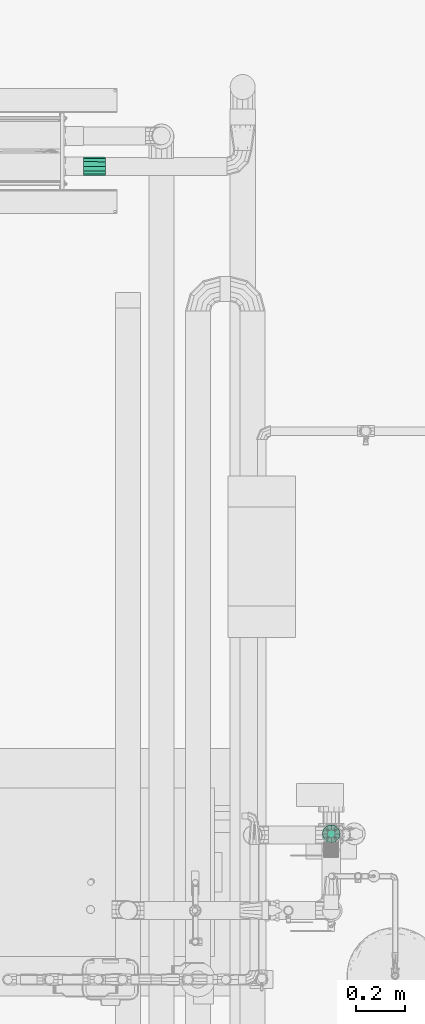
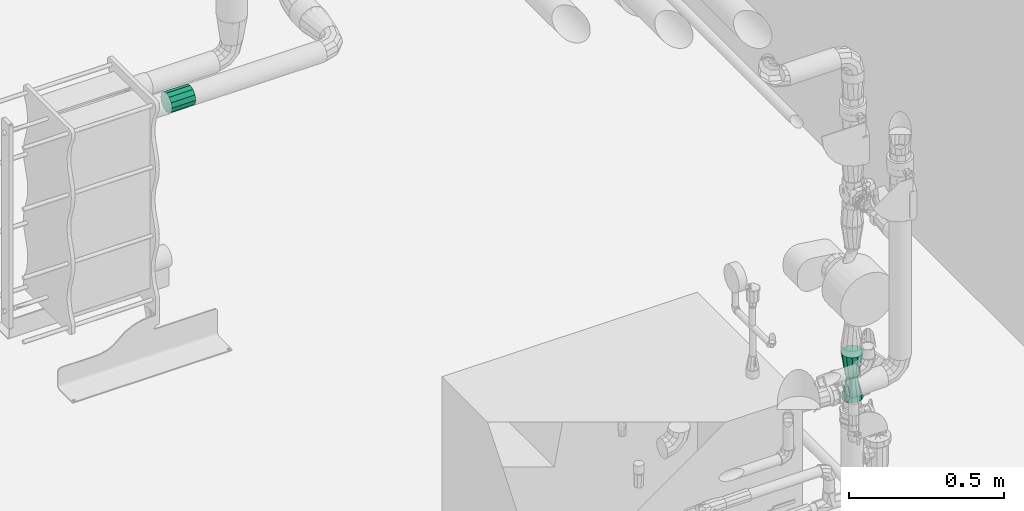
# One storey, part 34 of 43: 3 flow fittings.
"""IFC2X3 building model written with IfcOpenShell, lengths in millimetres."""

from ifc_helpers import new_model, entity, si_unit, converted_unit, derived_unit, direction, frame, origin, place, context, subcontext, project, spatial, faceted_brep, source, transform, mapped, material, type_object, type_shapes, element, save


model = new_model("IFC2X3")

# Units and contexts
model_context = context("Model", 3, precision=0.01, world=origin(), true_north=direction((6.123031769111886e-17, 1.0)))
body_context = subcontext(model_context, "Body", "Model", "MODEL_VIEW")
ifc_project = project(units=[si_unit("LENGTHUNIT", "METRE", prefix="MILLI"), si_unit("AREAUNIT", "SQUARE_METRE"), si_unit("VOLUMEUNIT", "CUBIC_METRE"), converted_unit("PLANEANGLEUNIT", "DEGREE", entity("IfcRatioMeasure", 0.017453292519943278), si_unit("PLANEANGLEUNIT", "RADIAN"), dimensions=[0, 0, 0, 0, 0, 0, 0]), si_unit("MASSUNIT", "GRAM", prefix="KILO"), derived_unit("MASSDENSITYUNIT", [(si_unit("MASSUNIT", "GRAM", prefix="KILO"), 1), (si_unit("LENGTHUNIT", "METRE"), -3)]), derived_unit("MOMENTOFINERTIAUNIT", [(si_unit("LENGTHUNIT", "METRE"), 4)]), si_unit("TIMEUNIT", "SECOND"), si_unit("FREQUENCYUNIT", "HERTZ"), si_unit("THERMODYNAMICTEMPERATUREUNIT", "DEGREE_CELSIUS"), derived_unit("THERMALTRANSMITTANCEUNIT", [(si_unit("MASSUNIT", "GRAM", prefix="KILO"), 1), (si_unit("THERMODYNAMICTEMPERATUREUNIT", "KELVIN"), -1), (si_unit("TIMEUNIT", "SECOND"), -3)]), derived_unit("VOLUMETRICFLOWRATEUNIT", [(si_unit("LENGTHUNIT", "METRE"), 3), (si_unit("TIMEUNIT", "SECOND"), -1)]), derived_unit("MASSFLOWRATEUNIT", [(si_unit("MASSUNIT", "GRAM", prefix="KILO"), 1), (si_unit("TIMEUNIT", "SECOND"), -1)]), derived_unit("ROTATIONALFREQUENCYUNIT", [(si_unit("TIMEUNIT", "SECOND"), -1)]), si_unit("ELECTRICCURRENTUNIT", "AMPERE"), si_unit("ELECTRICVOLTAGEUNIT", "VOLT"), si_unit("POWERUNIT", "WATT"), si_unit("FORCEUNIT", "NEWTON", prefix="KILO"), si_unit("ILLUMINANCEUNIT", "LUX"), si_unit("LUMINOUSFLUXUNIT", "LUMEN"), si_unit("LUMINOUSINTENSITYUNIT", "CANDELA"), derived_unit("USERDEFINED", [(si_unit("MASSUNIT", "GRAM", prefix="KILO"), -1), (si_unit("LENGTHUNIT", "METRE"), -2), (si_unit("TIMEUNIT", "SECOND"), 3), (si_unit("LUMINOUSFLUXUNIT", "LUMEN"), 1)]), derived_unit("SOUNDPOWERUNIT", [(si_unit("MASSUNIT", "GRAM", prefix="KILO"), 1), (si_unit("LENGTHUNIT", "METRE"), 2), (si_unit("TIMEUNIT", "SECOND"), -3)]), derived_unit("SOUNDPRESSUREUNIT", [(si_unit("MASSUNIT", "GRAM", prefix="KILO"), 1), (si_unit("LENGTHUNIT", "METRE"), -1), (si_unit("TIMEUNIT", "SECOND"), -2)]), derived_unit("LINEARVELOCITYUNIT", [(si_unit("LENGTHUNIT", "METRE"), 1), (si_unit("TIMEUNIT", "SECOND"), -1)]), si_unit("PRESSUREUNIT", "PASCAL"), derived_unit("USERDEFINED", [(si_unit("LENGTHUNIT", "METRE"), -2), (si_unit("MASSUNIT", "GRAM", prefix="KILO"), 1), (si_unit("TIMEUNIT", "SECOND"), -2)]), derived_unit("LINEARFORCEUNIT", [(si_unit("MASSUNIT", "GRAM", prefix="KILO"), 1), (si_unit("LENGTHUNIT", "METRE"), 1), (si_unit("TIMEUNIT", "SECOND"), -2), (si_unit("LENGTHUNIT", "METRE"), -1)]), derived_unit("PLANARFORCEUNIT", [(si_unit("MASSUNIT", "GRAM", prefix="KILO"), 1), (si_unit("LENGTHUNIT", "METRE"), 1), (si_unit("TIMEUNIT", "SECOND"), -2), (si_unit("LENGTHUNIT", "METRE"), -2)])], contexts=[model_context])

# Site, building, storey
site_placement = place(None, origin())
site = spatial("IfcSite", under=ifc_project, at=site_placement, Name="Default", CompositionType="ELEMENT")
building_placement = place(site_placement, origin())
building = spatial("IfcBuilding", under=site, at=building_placement, CompositionType="ELEMENT")
storey_placement = place(building_placement, frame((0.0, 0.0, 270.0)))
storey = spatial("IfcBuildingStorey", under=building, at=storey_placement, Name="Niveau 0", CompositionType="ELEMENT", Elevation=270.0)

# Flow fittings
ifc_material = material(Name="<Unnamed>")
pipe_fitting_type_1 = type_object("IfcPipeFittingType", Name="Transformation - Générique:Standard", PredefinedType="NOTDEFINED", material=ifc_material)
shared_shape_1 = source(origin(), body_context, "Body", "Brep", [
    faceted_brep([(89.0, 31.609927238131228, 18.24999999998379), (89.0, 24.92996361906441, 24.929963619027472), (89.0, 18.24999999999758, 31.60992723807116), (89.0, 9.125000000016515, 34.05496361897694), (89.0, 0.0, 36.499999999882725), (89.0, -9.12499999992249, 34.05496361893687), (89.0, -18.249999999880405, 31.609927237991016), (89.0, -24.92996361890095, 24.92996361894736), (89.0, -31.609927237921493, 18.2499999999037), (89.0, -34.05496361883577, 9.124999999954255), (89.0, -36.500000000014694, 0.0), (89.0, -34.05496361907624, -9.125000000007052), (89.0, -31.609927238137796, -18.250000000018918), (89.0, -24.929963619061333, -24.929963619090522), (89.0, -18.249999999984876, -31.60992723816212), (89.0, -9.12499999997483, -34.05496361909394), (89.0, 0.0, -36.500000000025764), (89.0, 9.12500000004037, -34.054963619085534), (89.0, 18.250000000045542, -31.609927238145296), (89.0, 24.92996361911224, -24.929963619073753), (89.0, 31.60992723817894, -18.250000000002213), (89.0, 34.05496361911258, -9.124999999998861), (89.0, 36.50000000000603, 0.0), (89.0, 34.05496361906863, 9.124999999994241), (0.0, 25.24345577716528, 25.243455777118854), (0.0, 32.007419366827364, 18.479492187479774), (0.0, 34.99679738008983, 7.322981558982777), (0.0, 36.95898437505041, 0.0), (0.0, 34.996797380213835, -7.322981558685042), (0.0, 32.00741936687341, -18.479492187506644), (0.0, 25.243455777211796, -25.24345577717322), (0.0, 18.479492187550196, -32.00741936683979), (0.0, 9.239746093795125, -34.48320187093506), (0.0, 0.0, -36.95898437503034), (0.0, -9.239746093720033, -34.483201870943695), (0.0, -18.479492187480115, -32.00741936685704), (0.0, -25.243455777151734, -25.243455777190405), (0.0, -32.00741936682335, -18.47949218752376), (0.0, -34.99679738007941, -7.322981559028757), (0.0, -36.9589843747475, 0.0), (0.0, -34.996797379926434, 7.322981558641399), (0.0, -32.00741936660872, 18.47949218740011), (0.0, -25.243455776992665, 25.24345577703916), (0.0, -18.47949218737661, 32.007419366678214), (0.0, -9.239746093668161, 34.48320187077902), (0.0, 0.0, 36.95898437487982), (0.0, 9.239746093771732, 34.48320187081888), (0.0, 18.479492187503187, 32.00741936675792)], [[[0, 1, 2, 3, 4, 5, 6, 7, 8, 9, 10, 11, 12, 13, 14, 15, 16, 17, 18, 19, 20, 21, 22, 23]], [[24, 25, 26, 27, 28, 29, 30, 31, 32, 33, 34, 35, 36, 37, 38, 39, 40, 41, 42, 43, 44, 45, 46, 47]], [[29, 28, 27, 22, 21, 20]], [[34, 33, 16, 15, 14, 35]], [[20, 19, 18, 31, 30, 29]], [[17, 16, 33, 32, 31, 18]], [[14, 13, 12, 37, 36, 35]], [[10, 39, 38, 37, 12, 11]], [[41, 40, 39, 10, 9, 8]], [[46, 45, 4, 3, 2, 47]], [[8, 7, 6, 43, 42, 41]], [[5, 4, 45, 44, 43, 6]], [[2, 1, 0, 25, 24, 47]], [[22, 27, 26, 25, 0, 23]]]),
])
type_shapes(pipe_fitting_type_1, [shared_shape_1])
flow_fitting_1_placement = place(storey_placement, frame((-2682.613200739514, -6606.933635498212, 909.0)))
element("IfcFlowFitting", 1, at=flow_fitting_1_placement, inside=storey, type_object=pipe_fitting_type_1, material=ifc_material, Name="Transformation - Générique:Standard", ObjectType="Transformation - Générique:Standard", context=body_context, shape_type="MappedRepresentation", body=[
    mapped(shared_shape_1, transform((0.0, 0.0, 0.0), scale=1.0)),
])
pipe_fitting_type_2 = type_object("IfcPipeFittingType", Name="Transformation - Générique:Standard", PredefinedType="NOTDEFINED", material=ifc_material)
shared_shape_2 = source(origin(), body_context, "Body", "Brep", [
    faceted_brep([(89.0, 16.699999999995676, 0.0), (89.0, 15.477170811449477, 2.9521708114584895), (89.0, 14.254341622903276, 5.904341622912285), (89.0, 13.031512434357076, 8.85651243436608), (89.0, 11.808683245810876, 11.808683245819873), (89.0, 8.856512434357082, 13.03151243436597), (89.0, 5.90434162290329, 14.254341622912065), (89.0, 2.952170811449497, 15.477170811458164), (89.0, 0.0, 16.70000000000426), (89.0, -2.9521708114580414, 15.47717081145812), (89.0, -5.904341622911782, 14.254341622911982), (89.0, -8.856512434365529, 13.031512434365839), (89.0, -11.808683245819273, 11.808683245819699), (89.0, -13.03151243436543, 8.856512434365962), (89.0, -14.254341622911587, 5.904341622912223), (89.0, -15.477170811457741, 2.9521708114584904), (89.0, -16.70000000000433, 0.0), (89.0, -15.477170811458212, -2.9521708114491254), (89.0, -14.254341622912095, -5.904341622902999), (89.0, -13.03151243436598, -8.85651243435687), (89.0, -11.80868324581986, -11.808683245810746), (89.0, -8.856512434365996, -13.031512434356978), (89.0, -5.90434162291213, -14.254341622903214), (89.0, -2.9521708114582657, -15.477170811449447), (89.0, 0.0, -16.699999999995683), (89.0, 2.9521708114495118, -15.477170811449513), (89.0, 5.9043416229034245, -14.254341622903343), (89.0, 8.856512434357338, -13.031512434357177), (89.0, 11.808683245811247, -11.808683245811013), (89.0, 13.03151243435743, -8.856512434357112), (89.0, 14.25434162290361, -5.904341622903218), (89.0, 15.477170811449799, -2.952170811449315), (0.0, 24.929963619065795, 24.929963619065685), (0.0, 31.609927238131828, 18.24999999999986), (0.0, 34.054963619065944, 9.124999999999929), (0.0, 36.50000000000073, 0.0), (0.0, 34.054963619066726, -9.12500000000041), (0.0, 31.609927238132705, -18.25000000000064), (0.0, 24.929963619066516, -24.929963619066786), (0.0, 18.25000000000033, -31.609927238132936), (0.0, 9.125000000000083, -34.0549636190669), (0.0, 0.0, -36.50000000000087), (0.0, -9.12500000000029, -34.054963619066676), (0.0, -18.250000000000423, -31.609927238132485), (0.0, -24.929963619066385, -24.92996361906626), (0.0, -31.60992723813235, -18.250000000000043), (0.0, -34.054963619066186, -9.124999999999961), (0.0, -36.499999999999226, 0.0), (0.0, -34.054963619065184, 9.124999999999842), (0.0, -31.60992723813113, 18.249999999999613), (0.0, -24.929963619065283, 24.929963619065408), (0.0, -18.249999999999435, 31.609927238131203), (0.0, -9.124999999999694, 34.054963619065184), (0.0, 0.0, 36.49999999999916), (0.0, 9.124999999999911, 34.05496361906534), (0.0, 18.249999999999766, 31.609927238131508)], [[[0, 1, 2, 3, 4, 5, 6, 7, 8, 9, 10, 11, 12, 13, 14, 15, 16, 17, 18, 19, 20, 21, 22, 23, 24, 25, 26, 27, 28, 29, 30, 31]], [[32, 33, 34, 35, 36, 37, 38, 39, 40, 41, 42, 43, 44, 45, 46, 47, 48, 49, 50, 51, 52, 53, 54, 55]], [[38, 29, 28]], [[37, 30, 29]], [[26, 40, 39]], [[25, 41, 40]], [[30, 37, 36]], [[19, 44, 20]], [[25, 24, 41]], [[40, 26, 25]], [[43, 21, 44]], [[19, 45, 44]], [[22, 43, 42]], [[44, 21, 20]], [[27, 38, 28]], [[47, 17, 16]], [[36, 31, 30]], [[43, 22, 21]], [[46, 17, 47]], [[37, 29, 38]], [[38, 27, 39]], [[0, 31, 35]], [[41, 23, 42]], [[19, 18, 45]], [[35, 31, 36]], [[46, 18, 17]], [[45, 18, 46]], [[27, 26, 39]], [[23, 41, 24]], [[23, 22, 42]], [[50, 13, 12]], [[49, 14, 13]], [[10, 52, 51]], [[9, 53, 52]], [[14, 49, 48]], [[3, 32, 4]], [[9, 8, 53]], [[52, 10, 9]], [[55, 5, 32]], [[3, 33, 32]], [[6, 55, 54]], [[32, 5, 4]], [[11, 50, 12]], [[35, 1, 0]], [[48, 15, 14]], [[55, 6, 5]], [[34, 1, 35]], [[49, 13, 50]], [[50, 11, 51]], [[16, 15, 47]], [[53, 7, 54]], [[3, 2, 33]], [[47, 15, 48]], [[34, 2, 1]], [[33, 2, 34]], [[11, 10, 51]], [[7, 53, 8]], [[7, 6, 54]]]),
])
type_shapes(pipe_fitting_type_2, [shared_shape_2])
flow_fitting_2_placement = place(storey_placement, frame((-1682.0, -9305.0, 1035.210529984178), z_axis=(0.0, 1.0, 0.0), x_axis=(0.0, 0.0, 1.0)))
element("IfcFlowFitting", 2, at=flow_fitting_2_placement, inside=storey, type_object=pipe_fitting_type_2, material=ifc_material, Name="Transformation - Générique:Standard", ObjectType="Transformation - Générique:Standard", context=body_context, shape_type="MappedRepresentation", body=[
    mapped(shared_shape_2, transform((0.0, 0.0, 0.0), scale=1.0)),
])
pipe_fitting_type_3 = type_object("IfcPipeFittingType", Name="Transformation - Générique:Standard", PredefinedType="NOTDEFINED", material=ifc_material)
shared_shape_3 = source(origin(), body_context, "Body", "Brep", [
    faceted_brep([(89.0, 19.5377604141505, 14.195013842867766), (89.0, 13.500260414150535, 18.58151435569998), (89.0, 7.462760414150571, 22.968014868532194), (89.0, 0.0, 22.968014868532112), (89.0, -7.462760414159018, 22.968014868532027), (89.0, -13.500260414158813, 18.581514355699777), (89.0, -19.537760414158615, 14.195013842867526), (89.0, -21.843880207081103, 7.0975069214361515), (89.0, -24.15000000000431, 0.0), (89.0, -21.843880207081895, -7.097506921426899), (89.0, -19.537760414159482, -14.195013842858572), (89.0, -13.500260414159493, -18.58151435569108), (89.0, -7.4627604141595, -22.968014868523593), (89.0, 0.0, -22.9680148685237), (89.0, 7.4627604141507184, -22.968014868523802), (89.0, 13.5002604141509, -18.58151435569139), (89.0, 19.537760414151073, -14.195013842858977), (89.0, 21.843880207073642, -7.097506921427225), (89.0, 24.149999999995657, 0.0), (89.0, 21.843880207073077, 7.0975069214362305), (0.0, 9.124999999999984, 34.05496361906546), (0.0, 18.24999999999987, 31.609927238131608), (0.0, 24.929963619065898, 24.929963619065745), (0.0, 31.609927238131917, 18.24999999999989), (0.0, 34.75590378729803, 6.5090556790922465), (0.0, 36.500000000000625, 0.0), (0.0, 34.75590385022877, -6.509055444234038), (0.0, 31.609927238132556, -18.25000000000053), (0.0, 24.929963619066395, -24.929963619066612), (0.0, 18.250000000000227, -31.60992723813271), (0.0, 9.125000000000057, -34.05496361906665), (0.0, 0.0, -36.50000000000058), (0.0, -9.12500000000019, -34.054963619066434), (0.0, -18.250000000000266, -31.609927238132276), (0.0, -24.929963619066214, -24.92996361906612), (0.0, -31.609927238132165, -18.249999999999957), (0.0, -34.75590378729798, -6.509055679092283), (0.0, -36.49999999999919, 0.0), (0.0, -34.75590385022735, 6.5090554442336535), (0.0, -31.609927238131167, 18.24999999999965), (0.0, -24.929963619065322, 24.929963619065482), (0.0, -18.249999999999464, 31.60992723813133), (0.0, -9.12499999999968, 34.054963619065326), (0.0, 0.0, 36.49999999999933)], [[[0, 1, 2, 3, 4, 5, 6, 7, 8, 9, 10, 11, 12, 13, 14, 15, 16, 17, 18, 19]], [[20, 21, 22, 23, 24, 25, 26, 27, 28, 29, 30, 31, 32, 33, 34, 35, 36, 37, 38, 39, 40, 41, 42, 43]], [[28, 15, 29]], [[27, 16, 28]], [[15, 28, 16]], [[27, 17, 16]], [[26, 18, 17]], [[33, 12, 11]], [[15, 14, 29]], [[30, 29, 14]], [[12, 32, 13]], [[14, 13, 30]], [[10, 34, 11]], [[8, 37, 36]], [[32, 31, 13]], [[8, 36, 9]], [[27, 26, 17]], [[12, 33, 32]], [[18, 26, 25]], [[9, 35, 10]], [[10, 35, 34]], [[35, 9, 36]], [[33, 11, 34]], [[30, 13, 31]], [[40, 5, 41]], [[39, 6, 40]], [[5, 40, 6]], [[39, 7, 6]], [[38, 8, 7]], [[21, 2, 1]], [[5, 4, 41]], [[42, 41, 4]], [[2, 20, 3]], [[4, 3, 42]], [[0, 22, 1]], [[18, 25, 24]], [[20, 43, 3]], [[18, 24, 19]], [[39, 38, 7]], [[2, 21, 20]], [[8, 38, 37]], [[19, 23, 0]], [[0, 23, 22]], [[23, 19, 24]], [[21, 1, 22]], [[42, 3, 43]]]),
])
type_shapes(pipe_fitting_type_3, [shared_shape_3])
flow_fitting_3_placement = place(storey_placement, frame((-1682.0, -9305.0, 1213.0689533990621), z_axis=(0.0, -1.0, 0.0), x_axis=(0.0, 0.0, -1.0)))
element("IfcFlowFitting", 3, at=flow_fitting_3_placement, inside=storey, type_object=pipe_fitting_type_3, material=ifc_material, Name="Transformation - Générique:Standard", ObjectType="Transformation - Générique:Standard", context=body_context, shape_type="MappedRepresentation", body=[
    mapped(shared_shape_3, transform((0.0, 0.0, 0.0), scale=1.0)),
])

save(model, "model.ifc")
